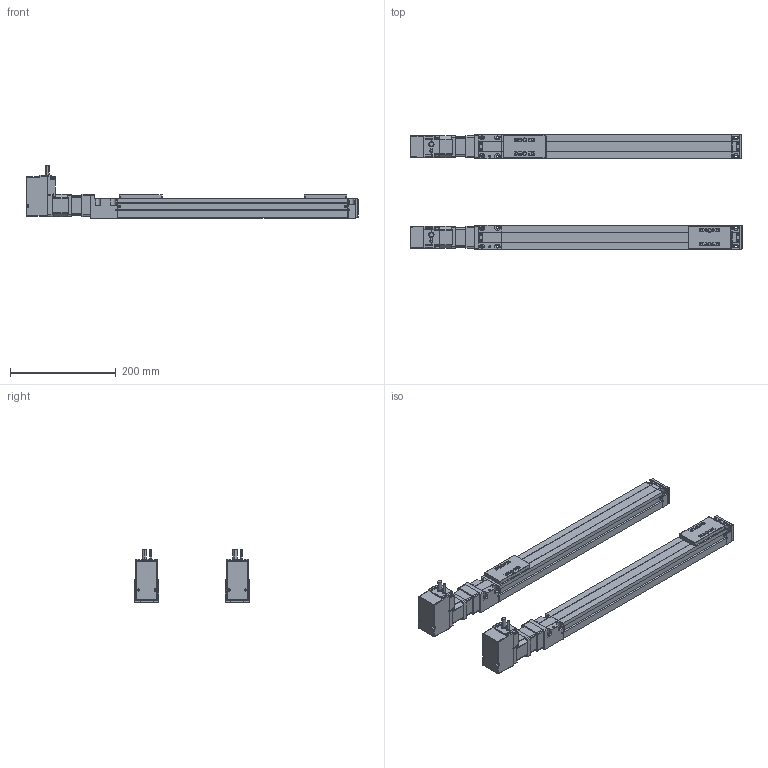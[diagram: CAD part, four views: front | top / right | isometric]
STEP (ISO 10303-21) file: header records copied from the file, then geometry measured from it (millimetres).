
FILE_DESCRIPTION(('STEP AP214'),'1');
FILE_NAME('K:\外形図\3D_DAD2\SCLT4_SBR\tmp0.step',' ',(' '),(' '),'XStep 1.0',' ',' ');
FILE_SCHEMA(('automotive_design'));
Length unit declared in the file: millimetre
Bounding box: 628.67 x 216.56 x 100.06 mm (x, y, z)
Volume: 2228672.9 mm3; surface area: 460921.4 mm2
Topology: 75 solids, 75 shells, 4185 faces, 11182 edges, 7078 vertices
Faces by surface type: plane 1957, cylinder 1672, torus 260, bspline 208, cone 48, sphere 40
Entity records: 177062 total; most frequent: CARTESIAN_POINT 35234, DIRECTION 23034, ORIENTED_EDGE 22220, EDGE_CURVE 11102, AXIS2_PLACEMENT_3D 8018, VERTEX_POINT 7078, LINE 6998, VECTOR 6998
